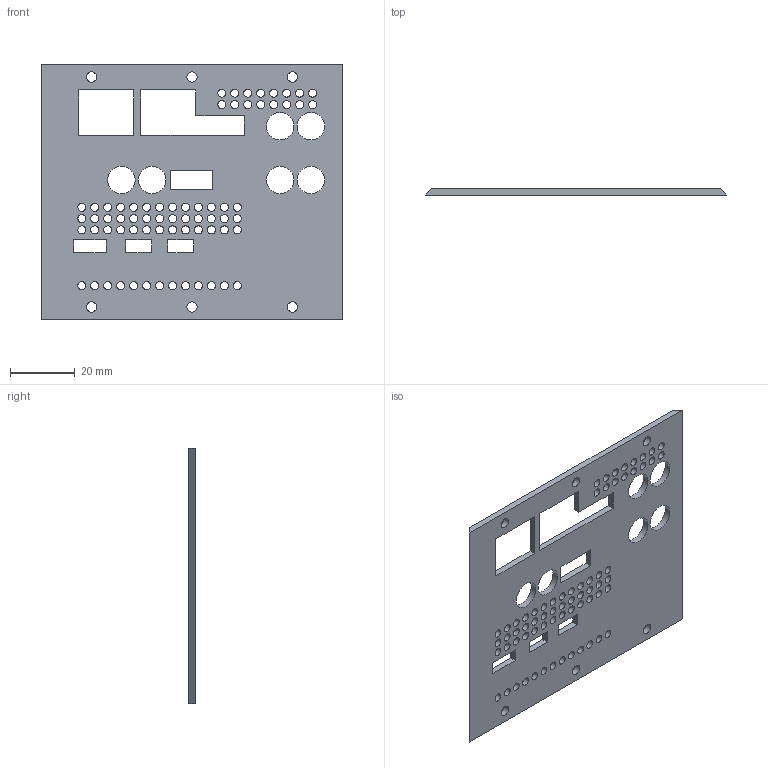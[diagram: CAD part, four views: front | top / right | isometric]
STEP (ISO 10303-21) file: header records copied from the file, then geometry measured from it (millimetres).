
FILE_DESCRIPTION(/* description */ ('STEP AP242','CAx-IF Rec.Pracs.---Representation and Presentation of Product Manufacturing Information (PMI)---4.0---2014-10-13','CAx-IF Rec.Pracs.---3D Tessellated Geometry---0.4---2014-09-14','2;1'),/* implementation_level */ '2;1');
FILE_NAME(/* name */ 'Case - Part 2',/* time_stamp */ '2024-08-18T13:23:26Z',/* author */ (''),/* organization */ (''),/* preprocessor_version */ 'ST-DEVELOPER v20',/* originating_system */ ' ',/* authorisation */ ' ');
FILE_SCHEMA (('AP242_MANAGED_MODEL_BASED_3D_ENGINEERING_MIM_LF { 1 0 10303 442 1 1 4 }'));
Length unit declared in the file: metre
Products named in the file (1): Part 2
Bounding box: 93 x 2 x 79 mm (x, y, z)
Volume: 11437 mm3; surface area: 14293.1 mm2
Topology: 1 solids, 1 shells, 112 faces, 330 edges, 220 vertices
Faces by surface type: cylinder 80, plane 32
Full cylindrical faces by diameter (mm): 2.5 x68, 3.2 x6, 8.5 x6
Entity records: 3780 total; most frequent: DIRECTION 636, CARTESIAN_POINT 583, ORIENTED_EDGE 500, EDGE_LOOP 364, FACE_BOUND 364, AXIS2_PLACEMENT_3D 273, EDGE_CURVE 250, VERTEX_POINT 220
